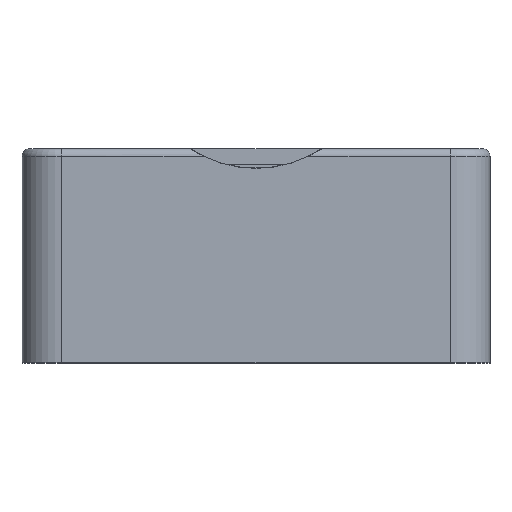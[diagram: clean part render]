
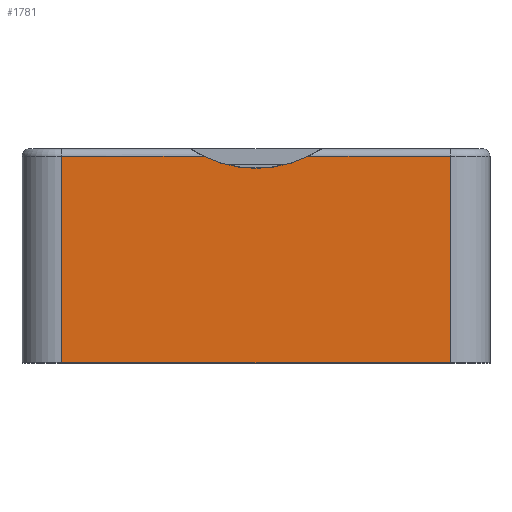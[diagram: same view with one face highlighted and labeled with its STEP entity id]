
A CAD part, top view. The second image highlights one B-rep face of the part: STEP entity #1781.
In plain terms, the highlighted planar face has unit normal (0, 0, 1).
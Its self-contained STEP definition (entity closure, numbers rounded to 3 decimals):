
#44=PLANE('',#1918);
#95=FACE_OUTER_BOUND('',#193,.T.);
#193=EDGE_LOOP('',(#1271,#1272,#1273,#1274,#1275,#1276));
#323=CIRCLE('',#1917,15.);
#431=LINE('',#2813,#603);
#432=LINE('',#2815,#604);
#433=LINE('',#2817,#605);
#434=LINE('',#2819,#606);
#435=LINE('',#2820,#607);
#603=VECTOR('',#2189,10.);
#604=VECTOR('',#2190,10.);
#605=VECTOR('',#2191,10.);
#606=VECTOR('',#2192,10.);
#607=VECTOR('',#2193,10.);
#788=VERTEX_POINT('',#2774);
#796=VERTEX_POINT('',#2799);
#797=VERTEX_POINT('',#2812);
#798=VERTEX_POINT('',#2814);
#799=VERTEX_POINT('',#2816);
#800=VERTEX_POINT('',#2818);
#981=EDGE_CURVE('',#788,#796,#323,.T.);
#982=EDGE_CURVE('',#797,#796,#431,.T.);
#983=EDGE_CURVE('',#797,#798,#432,.T.);
#984=EDGE_CURVE('',#799,#798,#433,.T.);
#985=EDGE_CURVE('',#800,#799,#434,.T.);
#986=EDGE_CURVE('',#788,#800,#435,.T.);
#1271=ORIENTED_EDGE('',*,*,#981,.T.);
#1272=ORIENTED_EDGE('',*,*,#982,.F.);
#1273=ORIENTED_EDGE('',*,*,#983,.T.);
#1274=ORIENTED_EDGE('',*,*,#984,.F.);
#1275=ORIENTED_EDGE('',*,*,#985,.F.);
#1276=ORIENTED_EDGE('',*,*,#986,.F.);
#1781=ADVANCED_FACE('',(#95),#44,.T.);
#1917=AXIS2_PLACEMENT_3D('',#2810,#2185,#2186);
#1918=AXIS2_PLACEMENT_3D('',#2811,#2187,#2188);
#2185=DIRECTION('center_axis',(0.,0.,-1.));
#2186=DIRECTION('ref_axis',(-1.,0.,0.));
#2187=DIRECTION('center_axis',(0.,0.,1.));
#2188=DIRECTION('ref_axis',(-1.,0.,0.));
#2189=DIRECTION('',(1.,0.,0.));
#2190=DIRECTION('',(0.,-1.,0.));
#2191=DIRECTION('',(-1.,0.,0.));
#2192=DIRECTION('',(0.,-1.,0.));
#2193=DIRECTION('',(1.,0.,0.));
#2774=CARTESIAN_POINT('',(34.038,1.,15.));
#2799=CARTESIAN_POINT('',(20.962,1.,15.));
#2810=CARTESIAN_POINT('Origin',(27.5,14.5,15.));
#2811=CARTESIAN_POINT('Origin',(52.,0.,15.));
#2812=CARTESIAN_POINT('',(3.,1.,15.));
#2813=CARTESIAN_POINT('',(39.75,1.,15.));
#2814=CARTESIAN_POINT('',(3.,-25.,15.));
#2815=CARTESIAN_POINT('',(3.,0.,15.));
#2816=CARTESIAN_POINT('',(52.,-25.,15.));
#2817=CARTESIAN_POINT('',(39.75,-25.,15.));
#2818=CARTESIAN_POINT('',(52.,1.,15.));
#2819=CARTESIAN_POINT('',(52.,0.,15.));
#2820=CARTESIAN_POINT('',(39.75,1.,15.));
